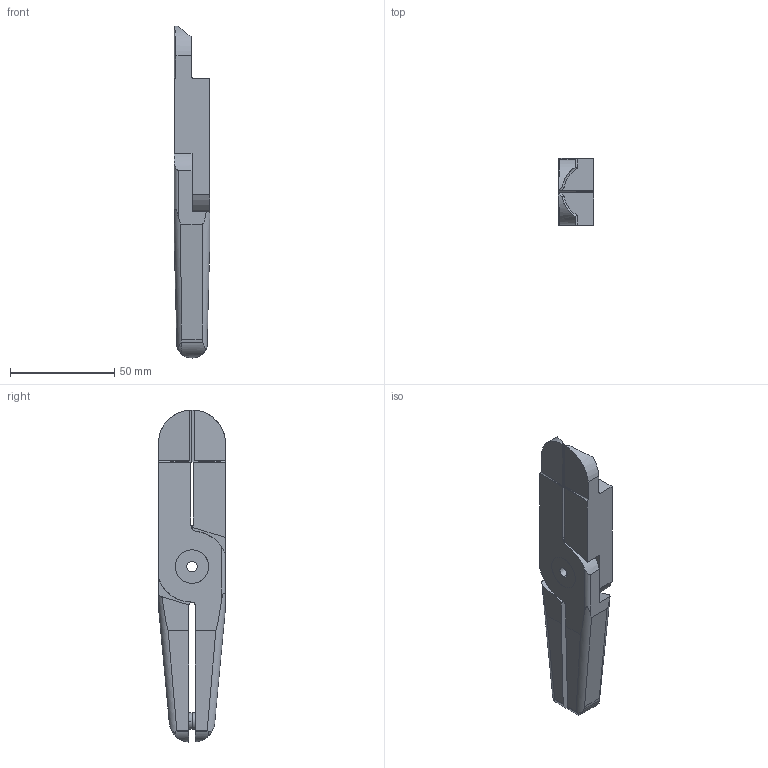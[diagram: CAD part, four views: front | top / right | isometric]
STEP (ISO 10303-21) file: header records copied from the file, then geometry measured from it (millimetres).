
FILE_DESCRIPTION (( 'STEP AP214' ), '1' );
FILE_NAME ('0614.STEP', '2012-03-27T19:42:12', ( 'User' ), ( 'EMI' ), 'SwSTEP 2.0', 'SolidWorks 2009', '' );
FILE_SCHEMA (( 'AUTOMOTIVE_DESIGN' ));
Length unit declared in the file: millimetre
Products named in the file (1): 0614
Bounding box: 16.9 x 32 x 158.95 mm (x, y, z)
Volume: 59904.4 mm3; surface area: 21318.4 mm2
Topology: 3 solids, 3 shells, 102 faces, 285 edges, 193 vertices
Faces by surface type: cylinder 51, plane 46, bspline 5
Entity records: 4913 total; most frequent: CARTESIAN_POINT 2515, ORIENTED_EDGE 570, DIRECTION 374, EDGE_CURVE 285, VERTEX_POINT 193, B_SPLINE_CURVE_WITH_KNOTS 132, AXIS2_PLACEMENT_3D 131, LINE 112
